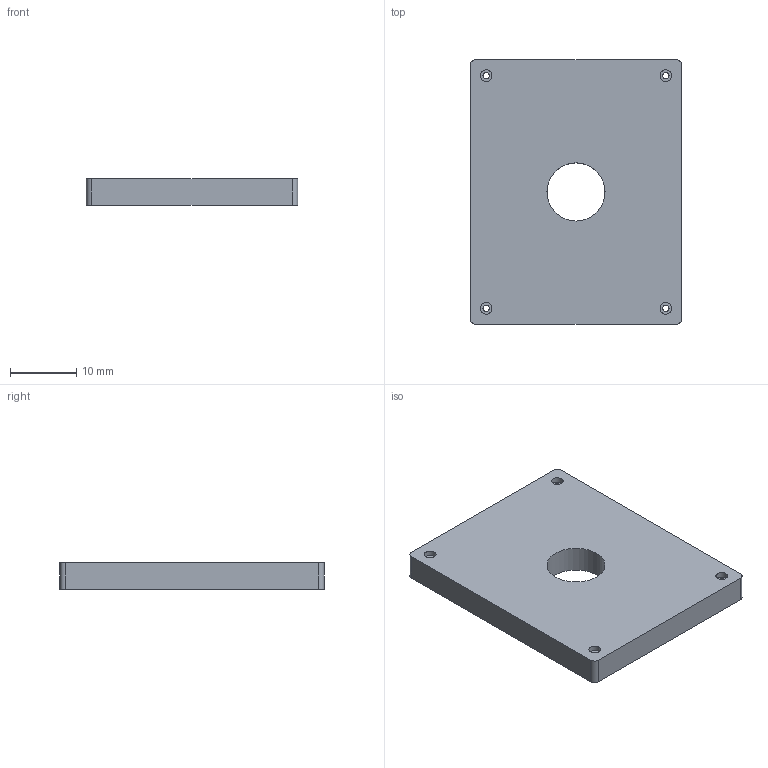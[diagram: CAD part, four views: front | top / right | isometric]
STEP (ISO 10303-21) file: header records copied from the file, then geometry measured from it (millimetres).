
FILE_DESCRIPTION(('Open CASCADE Model'),'2;1');
FILE_NAME('Open CASCADE Shape Model','2026-10-26T07:39:20',('Author'),( 'Open CASCADE'),'Open CASCADE STEP processor 7.9','Open CASCADE 7.9' ,'Unknown');
FILE_SCHEMA(('AUTOMOTIVE_DESIGN { 1 0 10303 214 1 1 1 1 }'));
Length unit declared in the file: millimetre
Products named in the file (1): Open CASCADE STEP translator 7.9 1
Bounding box: 32 x 40 x 4 mm (x, y, z)
Volume: 4857.2 mm3; surface area: 3169.3 mm2
Topology: 1 solids, 1 shells, 23 faces, 51 edges, 34 vertices
Faces by surface type: cylinder 13, plane 10
Full cylindrical faces by diameter (mm): 0.96 x4, 1.76 x4, 8.8 x1
Entity records: 1386 total; most frequent: CARTESIAN_POINT 295, DIRECTION 213, ORIENTED_EDGE 102, PCURVE 102, DEFINITIONAL_REPRESENTATION 102, LINE 101, VECTOR 101, EDGE_CURVE 51
